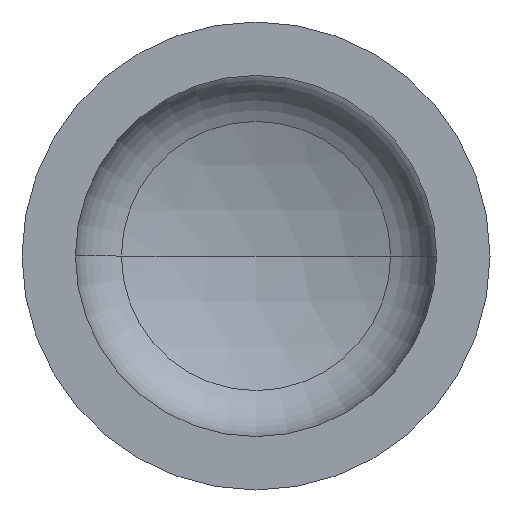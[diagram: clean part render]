
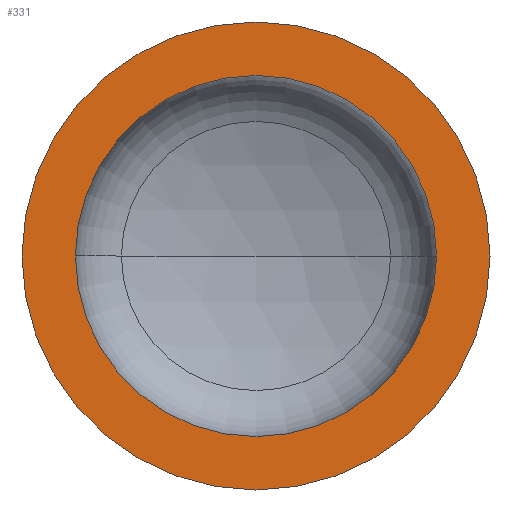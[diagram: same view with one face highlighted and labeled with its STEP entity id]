
A CAD part, front view. The second image highlights one B-rep face of the part: STEP entity #331.
In plain terms, the highlighted planar face has unit normal (0, -1, 0).
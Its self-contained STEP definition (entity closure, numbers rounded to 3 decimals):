
#5 = EDGE_LOOP ( 'NONE', ( #126, #152 ) ) ;
#42 = CIRCLE ( 'NONE', #214, 196. ) ;
#46 = VERTEX_POINT ( 'NONE', #283 ) ;
#63 = AXIS2_PLACEMENT_3D ( 'NONE', #306, #292, #291 ) ;
#66 = AXIS2_PLACEMENT_3D ( 'NONE', #372, #304, #302 ) ;
#74 = EDGE_LOOP ( 'NONE', ( #234, #318 ) ) ;
#100 = EDGE_CURVE ( 'NONE', #111, #46, #409, .T. ) ;
#104 = EDGE_CURVE ( 'NONE', #154, #159, #220, .T. ) ;
#111 = VERTEX_POINT ( 'NONE', #289 ) ;
#126 = ORIENTED_EDGE ( 'NONE', *, *, #361, .T. ) ;
#138 = CARTESIAN_POINT ( 'NONE',  ( -254., 0., 0. ) ) ;
#148 = PLANE ( 'NONE',  #260 ) ;
#152 = ORIENTED_EDGE ( 'NONE', *, *, #100, .T. ) ;
#154 = VERTEX_POINT ( 'NONE', #244 ) ;
#159 = VERTEX_POINT ( 'NONE', #265 ) ;
#170 = CARTESIAN_POINT ( 'NONE',  ( 0., 0., 0. ) ) ;
#178 = CARTESIAN_POINT ( 'NONE',  ( 0., 0., 0. ) ) ;
#180 = FACE_OUTER_BOUND ( 'NONE', #5, .T. ) ;
#183 = DIRECTION ( 'NONE',  ( 0., -1., 0. ) ) ;
#214 = AXIS2_PLACEMENT_3D ( 'NONE', #170, #389, #320 ) ;
#220 = CIRCLE ( 'NONE', #63, 196. ) ;
#229 = CIRCLE ( 'NONE', #309, 254. ) ;
#234 = ORIENTED_EDGE ( 'NONE', *, *, #104, .F. ) ;
#244 = CARTESIAN_POINT ( 'NONE',  ( 196., 0., 0. ) ) ;
#260 = AXIS2_PLACEMENT_3D ( 'NONE', #138, #392, #347 ) ;
#265 = CARTESIAN_POINT ( 'NONE',  ( -196., 0., 0. ) ) ;
#283 = CARTESIAN_POINT ( 'NONE',  ( 254., 0., 0. ) ) ;
#289 = CARTESIAN_POINT ( 'NONE',  ( -254., 0., 0. ) ) ;
#291 = DIRECTION ( 'NONE',  ( 1., 0., 0. ) ) ;
#292 = DIRECTION ( 'NONE',  ( 0., -1., 0. ) ) ;
#302 = DIRECTION ( 'NONE',  ( 1., 0., 0. ) ) ;
#304 = DIRECTION ( 'NONE',  ( 0., -1., 0. ) ) ;
#306 = CARTESIAN_POINT ( 'NONE',  ( 0., 0., 0. ) ) ;
#309 = AXIS2_PLACEMENT_3D ( 'NONE', #178, #183, #360 ) ;
#310 = FACE_BOUND ( 'NONE', #74, .T. ) ;
#318 = ORIENTED_EDGE ( 'NONE', *, *, #337, .F. ) ;
#320 = DIRECTION ( 'NONE',  ( 1., 0., 0. ) ) ;
#331 = ADVANCED_FACE ( 'NONE', ( #310, #180 ), #148, .F. ) ;
#337 = EDGE_CURVE ( 'NONE', #159, #154, #42, .T. ) ;
#347 = DIRECTION ( 'NONE',  ( -1., 0., 0. ) ) ;
#360 = DIRECTION ( 'NONE',  ( 1., 0., 0. ) ) ;
#361 = EDGE_CURVE ( 'NONE', #46, #111, #229, .T. ) ;
#372 = CARTESIAN_POINT ( 'NONE',  ( 0., 0., 0. ) ) ;
#389 = DIRECTION ( 'NONE',  ( 0., -1., 0. ) ) ;
#392 = DIRECTION ( 'NONE',  ( 0., 1., 0. ) ) ;
#409 = CIRCLE ( 'NONE', #66, 254. ) ;
